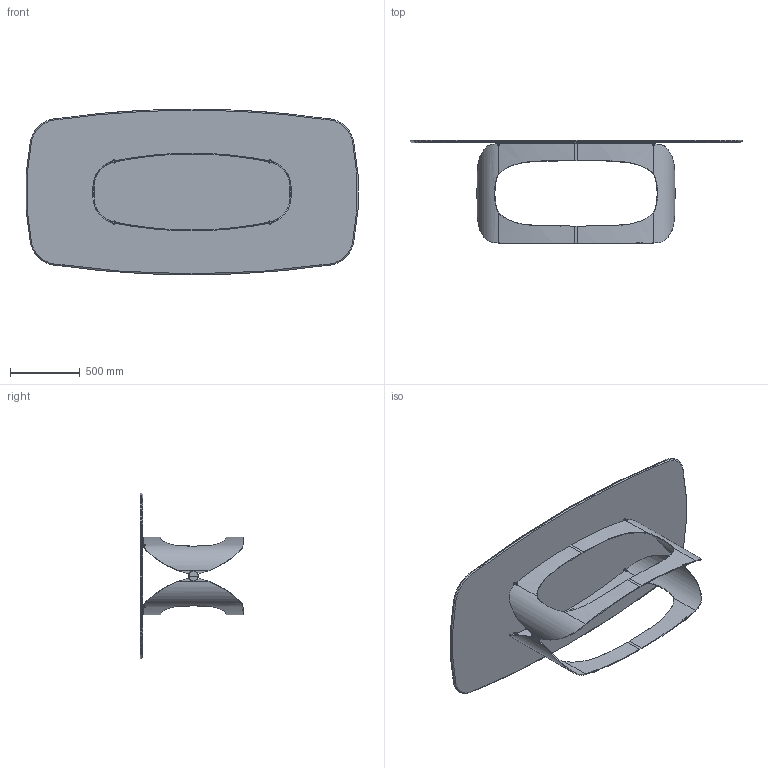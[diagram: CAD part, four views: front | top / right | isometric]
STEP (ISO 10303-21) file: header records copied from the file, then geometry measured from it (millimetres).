
FILE_DESCRIPTION (( 'STEP AP203' ), '1' );
FILE_NAME ('PO42C.STEP', '2024-08-06T14:03:49', ( '' ), ( '' ), 'SwSTEP 2.0', 'SolidWorks 2022', '' );
FILE_SCHEMA (( 'CONFIG_CONTROL_DESIGN' ));
Length unit declared in the file: millimetre
Products named in the file (11): POL000000_01-01-MEZZA BASE POLIFEMO X PIANI 200-240_POL000000_03-00-MEZZA BASE PLIFEMO L160; POL000000-00-POLIFEMO BASE X PIANI 200-240_POL000000-00-POLIFEMO BASE L160; K4XCMXX-00-Piani Sagomati in ceramica_2390 x 1190; POL000000_03-01-POLIFEMO FREGIO COMPLETO; POL000000_03B-00-POLIFEMO FREGIO; POL000000_03A-01-POLIFEMO FREGIO; PST0GR022-01-PIASTRA D22x22H mm+FILETTO M8 AVP-AVZ GREZZO; PVC Ø19x3; PVC profilo Polifemo 9x8; POL000000_02-02-CILINDRO DI FISSAGGIO Ø12X15 M8; PO42C
Assembly tree (24 placements, depth 3):
  PO42C
    POL000000-00-POLIFEMO BASE X PIANI 200-240_POL000000-00-POLIFEMO BASE L160
      POL000000_01-01-MEZZA BASE POLIFEMO X PIANI 200-240_POL000000_03-00-MEZZA BASE PLIFEMO L160  x2
      POL000000_02-02-CILINDRO DI FISSAGGIO Ø12X15 M8  x4
    POL000000_03-01-POLIFEMO FREGIO COMPLETO  x2
      POL000000_03A-01-POLIFEMO FREGIO
      POL000000_03B-00-POLIFEMO FREGIO
    PST0GR022-01-PIASTRA D22x22H mm+FILETTO M8 AVP-AVZ GREZZO  x4
    PVC Ø19x3  x4
    PVC profilo Polifemo 9x8  x3
    K4XCMXX-00-Piani Sagomati in ceramica_2390 x 1190
Bounding box: 2382.15 x 740.97 x 1190 mm (x, y, z)
Volume: 48971977.2 mm3; surface area: 13089668.9 mm2
Topology: 25 solids, 25 shells, 497 faces, 1229 edges, 788 vertices
Faces by surface type: cylinder 235, plane 153, bspline 80, cone 29
Entity records: 17359 total; most frequent: CARTESIAN_POINT 11296, ORIENTED_EDGE 1002, DIRECTION 878, EDGE_CURVE 501, AXIS2_PLACEMENT_3D 339, VERTEX_POINT 320, EDGE_LOOP 207, FACE_OUTER_BOUND 201
